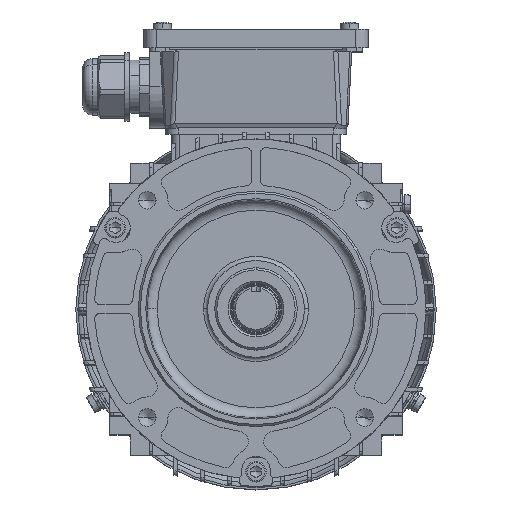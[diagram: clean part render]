
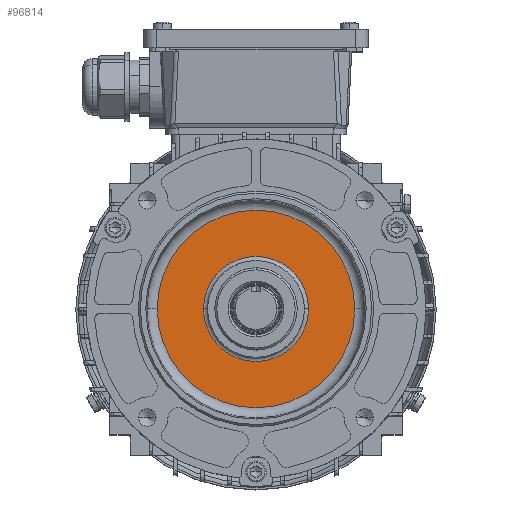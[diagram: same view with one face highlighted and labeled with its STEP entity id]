
A CAD part, top view. The second image highlights one B-rep face of the part: STEP entity #96814.
In plain terms, the highlighted planar face has unit normal (0, 0, 1).
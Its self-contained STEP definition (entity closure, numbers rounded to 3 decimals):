
#2149 = ORIENTED_EDGE ( 'NONE', *, *, #17947, .F. ) ;
#6440 = VERTEX_POINT ( 'NONE', #31824 ) ;
#9829 = CARTESIAN_POINT ( 'NONE',  ( -79.917, 20.911, 175.19 ) ) ;
#13740 = CIRCLE ( 'NONE', #39562, 25.5 ) ;
#17343 = CARTESIAN_POINT ( 'NONE',  ( -127.881, 20.911, 175.19 ) ) ;
#17947 = EDGE_CURVE ( 'NONE', #23131, #30854, #65007, .T. ) ;
#18361 = EDGE_LOOP ( 'NONE', ( #85366, #54895 ) ) ;
#18564 = DIRECTION ( 'NONE',  ( 1., 0., 0. ) ) ;
#21927 = CARTESIAN_POINT ( 'NONE',  ( -105.417, 20.911, 175.19 ) ) ;
#23131 = VERTEX_POINT ( 'NONE', #21927 ) ;
#25724 = VERTEX_POINT ( 'NONE', #17343 ) ;
#26324 = CIRCLE ( 'NONE', #100338, 47.964 ) ;
#29646 = CARTESIAN_POINT ( 'NONE',  ( -79.917, 20.911, 175.19 ) ) ;
#30245 = DIRECTION ( 'NONE',  ( 0., 0., 1. ) ) ;
#30452 = AXIS2_PLACEMENT_3D ( 'NONE', #82061, #30245, #90726 ) ;
#30854 = VERTEX_POINT ( 'NONE', #87837 ) ;
#31824 = CARTESIAN_POINT ( 'NONE',  ( -31.952, 20.911, 175.19 ) ) ;
#32250 = DIRECTION ( 'NONE',  ( 0., 0., 1. ) ) ;
#38369 = DIRECTION ( 'NONE',  ( 1., 0., 0. ) ) ;
#39562 = AXIS2_PLACEMENT_3D ( 'NONE', #9829, #70360, #18564 ) ;
#40410 = PLANE ( 'NONE',  #52838 ) ;
#41476 = EDGE_CURVE ( 'NONE', #30854, #23131, #13740, .T. ) ;
#41889 = FACE_OUTER_BOUND ( 'NONE', #18361, .T. ) ;
#45669 = EDGE_CURVE ( 'NONE', #6440, #25724, #91585, .T. ) ;
#49132 = DIRECTION ( 'NONE',  ( 0., 0., -1. ) ) ;
#52838 = AXIS2_PLACEMENT_3D ( 'NONE', #57423, #49132, #109563 ) ;
#54895 = ORIENTED_EDGE ( 'NONE', *, *, #74706, .T. ) ;
#57423 = CARTESIAN_POINT ( 'NONE',  ( -79.917, 46.411, 175.19 ) ) ;
#65007 = CIRCLE ( 'NONE', #30452, 25.5 ) ;
#66233 = ORIENTED_EDGE ( 'NONE', *, *, #41476, .F. ) ;
#70360 = DIRECTION ( 'NONE',  ( 0., 0., 1. ) ) ;
#74706 = EDGE_CURVE ( 'NONE', #25724, #6440, #26324, .T. ) ;
#76904 = AXIS2_PLACEMENT_3D ( 'NONE', #29646, #90109, #38369 ) ;
#81227 = EDGE_LOOP ( 'NONE', ( #66233, #2149 ) ) ;
#82061 = CARTESIAN_POINT ( 'NONE',  ( -79.917, 20.911, 175.19 ) ) ;
#84056 = CARTESIAN_POINT ( 'NONE',  ( -79.917, 20.911, 175.19 ) ) ;
#85366 = ORIENTED_EDGE ( 'NONE', *, *, #45669, .T. ) ;
#87837 = CARTESIAN_POINT ( 'NONE',  ( -54.417, 20.911, 175.19 ) ) ;
#90109 = DIRECTION ( 'NONE',  ( 0., 0., 1. ) ) ;
#90726 = DIRECTION ( 'NONE',  ( 1., 0., 0. ) ) ;
#91585 = CIRCLE ( 'NONE', #76904, 47.964 ) ;
#92735 = DIRECTION ( 'NONE',  ( 1., 0., 0. ) ) ;
#96814 = ADVANCED_FACE ( 'NONE', ( #110853, #41889 ), #40410, .F. ) ;
#100338 = AXIS2_PLACEMENT_3D ( 'NONE', #84056, #32250, #92735 ) ;
#109563 = DIRECTION ( 'NONE',  ( -1., 0., 0. ) ) ;
#110853 = FACE_BOUND ( 'NONE', #81227, .T. ) ;
